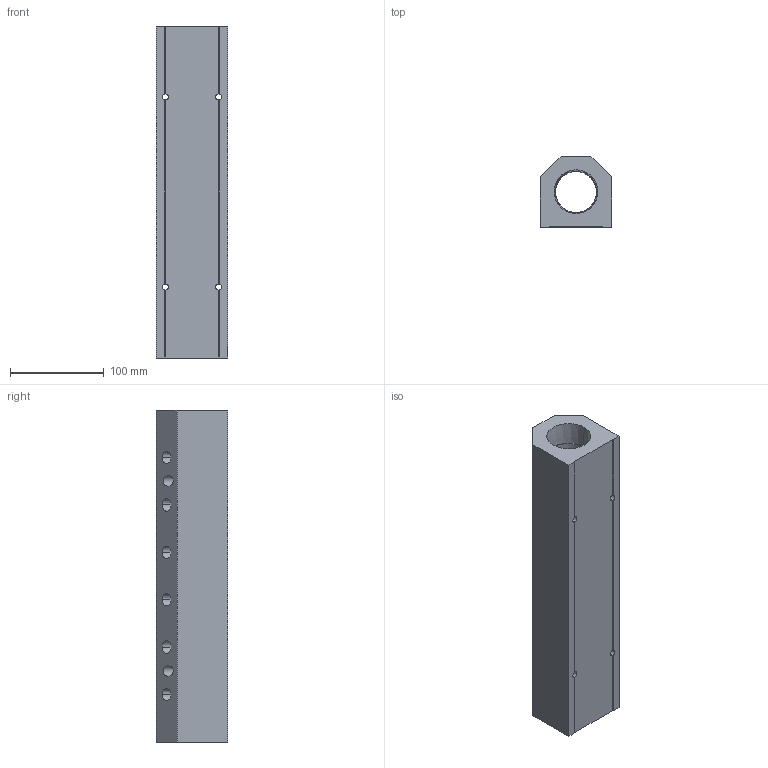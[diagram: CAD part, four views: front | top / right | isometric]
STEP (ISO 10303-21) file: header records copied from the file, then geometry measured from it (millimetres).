
FILE_DESCRIPTION (( 'STEP AP214' ), '1' );
FILE_NAME ('ALM6BCD-N4N24-355B.step', '2022-02-07T07:46:23', ( '' ), ( '' ), 'SwSTEP 2.0', 'SolidWorks 2020', '' );
FILE_SCHEMA (( 'AUTOMOTIVE_DESIGN' ));
Length unit declared in the file: millimetre
Products named in the file (1): ALM6BCD-N4N24-355B
Bounding box: 76.2 x 76.2 x 355 mm (x, y, z)
Volume: 1281385 mm3; surface area: 168617.9 mm2
Topology: 1 solids, 1 shells, 359 faces, 958 edges, 636 vertices
Faces by surface type: plane 220, bspline 81, cone 40, cylinder 18
Entity records: 21037 total; most frequent: CARTESIAN_POINT 9153, ORIENTED_EDGE 1916, DIRECTION 1374, EDGE_CURVE 958, LINE 672, VECTOR 672, VERTEX_POINT 636, EDGE_LOOP 440
